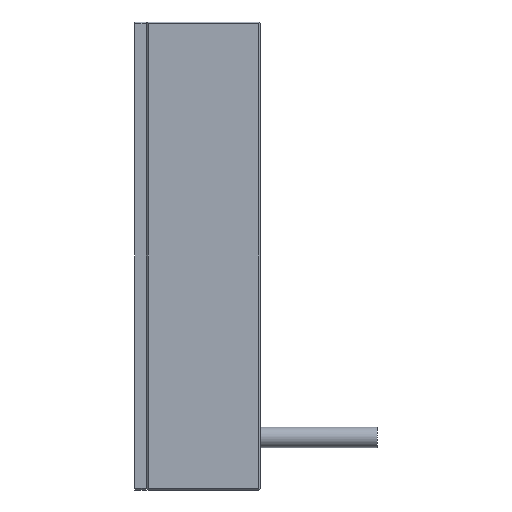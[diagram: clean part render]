
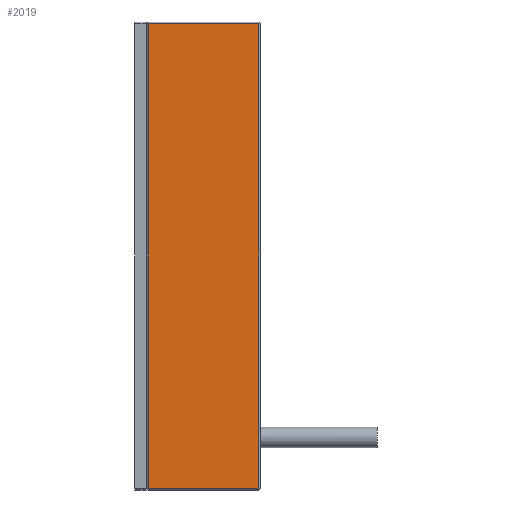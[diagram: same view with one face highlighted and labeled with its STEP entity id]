
A CAD part, left-side view. The second image highlights one B-rep face of the part: STEP entity #2019.
In plain terms, the highlighted planar face has unit normal (-1, 0, 0).
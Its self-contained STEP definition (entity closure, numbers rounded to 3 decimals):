
#741=DIRECTION('',(0.,1.,0.));
#742=VECTOR('',#741,18.9);
#743=CARTESIAN_POINT('',(1.5,0.3,-39.7));
#744=LINE('',#743,#742);
#745=DIRECTION('',(0.,0.,1.));
#746=VECTOR('',#745,79.4);
#747=CARTESIAN_POINT('',(1.5,19.2,-39.7));
#748=LINE('',#747,#746);
#749=DIRECTION('',(0.,-1.,0.));
#750=VECTOR('',#749,18.9);
#751=CARTESIAN_POINT('',(1.5,19.2,39.7));
#752=LINE('',#751,#750);
#753=DIRECTION('',(0.,0.,1.));
#754=VECTOR('',#753,79.4);
#755=CARTESIAN_POINT('',(1.5,0.3,-39.7));
#756=LINE('',#755,#754);
#840=CARTESIAN_POINT('',(1.5,0.3,-39.7));
#841=CARTESIAN_POINT('',(1.5,19.2,-39.7));
#842=VERTEX_POINT('',#840);
#843=VERTEX_POINT('',#841);
#848=CARTESIAN_POINT('',(1.5,0.3,39.7));
#849=VERTEX_POINT('',#848);
#858=CARTESIAN_POINT('',(1.5,19.2,39.7));
#859=VERTEX_POINT('',#858);
#2007=CARTESIAN_POINT('',(1.5,0.,40.));
#2008=DIRECTION('',(-1.,0.,0.));
#2009=DIRECTION('',(0.,1.,0.));
#2010=AXIS2_PLACEMENT_3D('',#2007,#2008,#2009);
#2011=PLANE('',#2010);
#2013=ORIENTED_EDGE('',*,*,#2012,.T.);
#2014=ORIENTED_EDGE('',*,*,#1305,.T.);
#2015=ORIENTED_EDGE('',*,*,#1324,.T.);
#2016=ORIENTED_EDGE('',*,*,#1996,.F.);
#2017=EDGE_LOOP('',(#2013,#2014,#2015,#2016));
#2018=FACE_OUTER_BOUND('',#2017,.F.);
#1305=EDGE_CURVE('',#843,#859,#748,.T.);
#1324=EDGE_CURVE('',#859,#849,#752,.T.);
#1996=EDGE_CURVE('',#842,#849,#756,.T.);
#2012=EDGE_CURVE('',#842,#843,#744,.T.);
#2019=ADVANCED_FACE('',(#2018),#2011,.T.);
